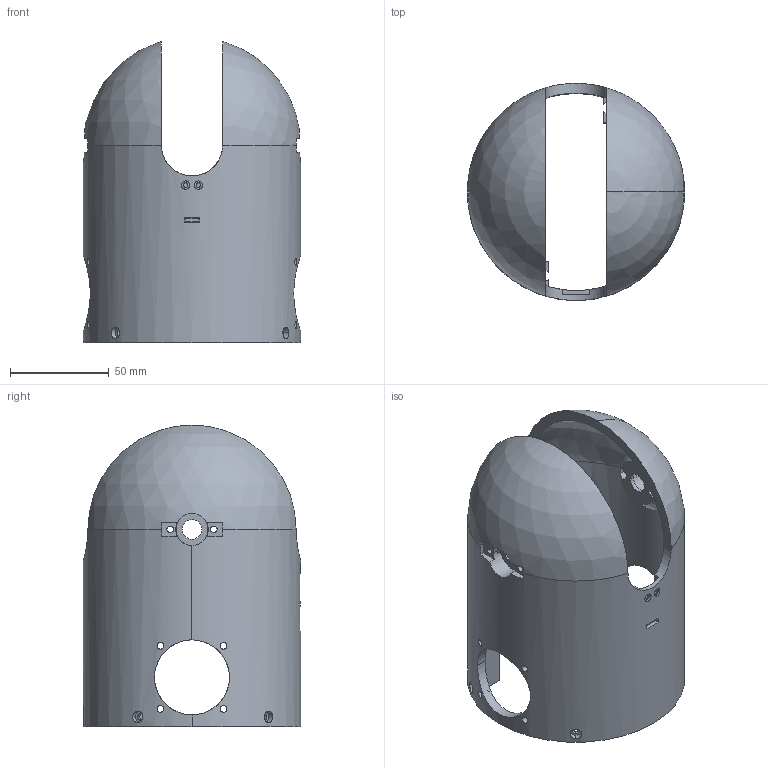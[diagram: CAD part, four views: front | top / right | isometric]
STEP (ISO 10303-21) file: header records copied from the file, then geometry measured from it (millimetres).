
FILE_DESCRIPTION((''),'2;1');
FILE_NAME('ART4BODY_V-2','2022-08-24T09:28:31',('domen.bizjak'),('Audax d.o.o.'),'CREO PARAMETRIC BY PTC INC, 2021184','CREO PARAMETRIC BY PTC INC, 2021184','');
FILE_SCHEMA(('AP242_MANAGED_MODEL_BASED_3D_ENGINEERING_MIM_LF { 1 0 10303 442 1 1 4 }'));
Length unit declared in the file: millimetre
Products named in the file (1): ART4BODY_V-2
Bounding box: 110 x 110 x 152.77 mm (x, y, z)
Volume: 228999.3 mm3; surface area: 100067.5 mm2
Topology: 1 solids, 1 shells, 248 faces, 721 edges, 478 vertices
Faces by surface type: plane 172, cylinder 66, sphere 6, cone 4
Entity records: 11914 total; most frequent: CARTESIAN_POINT 2458, ORIENTED_EDGE 1424, DIRECTION 1286, PRESENTATION_STYLE_ASSIGNMENT 724, STYLED_ITEM 724, CURVE_STYLE 719, EDGE_CURVE 712, VERTEX_POINT 468
